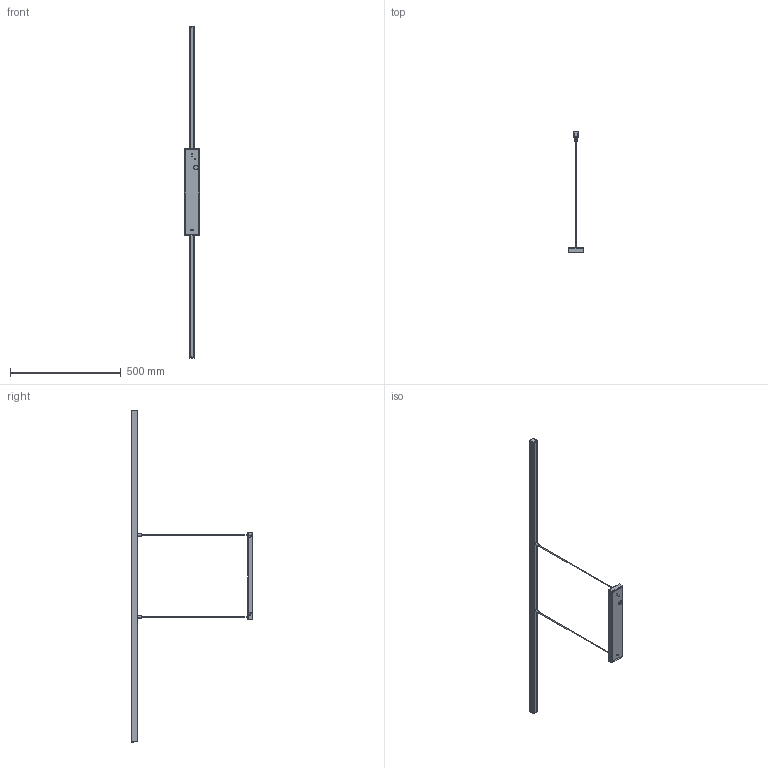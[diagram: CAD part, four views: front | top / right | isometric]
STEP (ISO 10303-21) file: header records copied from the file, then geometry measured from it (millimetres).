
FILE_DESCRIPTION (( 'STEP AP214' ), '1' );
FILE_NAME ('2000788 Pendelleichte ICE Emotion.STEP', '2022-11-03T09:32:58', ( '' ), ( '' ), 'SwSTEP 2.0', 'SolidWorks 2021', '' );
FILE_SCHEMA (( 'AUTOMOTIVE_DESIGN' ));
Length unit declared in the file: millimetre
Products named in the file (9): Abdeckung Pendelleuchte ICE Emotion_1496; Konverteraufnahme; 1432596-1432595_Endkappe Ice Profil; 2000788 Pendelleichte ICE Emotion; Ice_Profil_1700714_715_716_1500; Seilhalter chrom für Haltevorrichtung für die Höhenjustierung, Gewinde = M10, Chrom; Konverterverkleidung; Seil; Seilhalter f. Pendelleuchte
Assembly tree (12 placements, depth 2):
  2000788 Pendelleichte ICE Emotion
    Konverterverkleidung
    Konverteraufnahme
    Ice_Profil_1700714_715_716_1500
    Abdeckung Pendelleuchte ICE Emotion_1496
    1432596-1432595_Endkappe Ice Profil  x2
    Seilhalter f. Pendelleuchte  x2
    Seilhalter chrom für Haltevorrichtung für die Höhenjustierung, Gewinde = M10, Chrom  x2
    Seil  x2
Bounding box: 68.6 x 548.31 x 1500 mm (x, y, z)
Volume: 325381.5 mm3; surface area: 547194.1 mm2
Topology: 12 solids, 12 shells, 691 faces, 1745 edges, 1056 vertices
Faces by surface type: cylinder 329, plane 258, torus 60, bspline 36, sphere 4, cone 4
Entity records: 16141 total; most frequent: CARTESIAN_POINT 4109, DIRECTION 2542, ORIENTED_EDGE 2372, EDGE_CURVE 1186, AXIS2_PLACEMENT_3D 939, VERTEX_POINT 743, VECTOR 664, LINE 664
